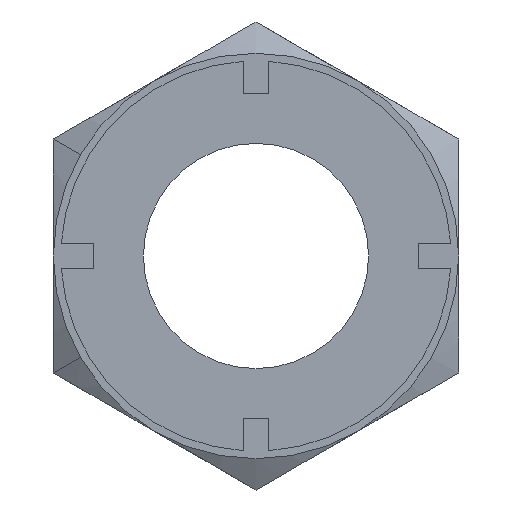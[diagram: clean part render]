
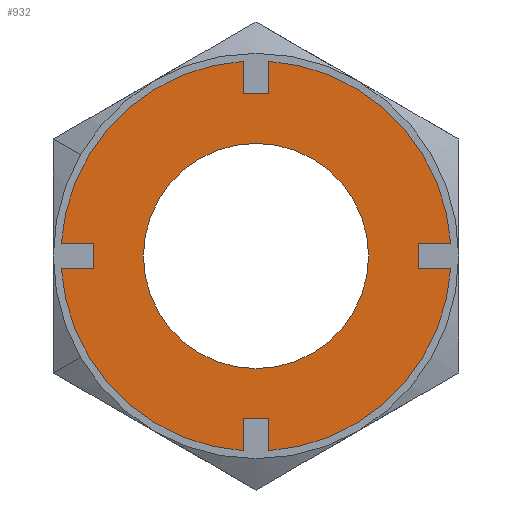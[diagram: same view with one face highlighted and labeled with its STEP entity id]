
A CAD part, left-side view. The second image highlights one B-rep face of the part: STEP entity #932.
In plain terms, the highlighted planar face has unit normal (-1, 0, 0).
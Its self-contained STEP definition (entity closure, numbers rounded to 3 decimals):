
#130=CARTESIAN_POINT('',(-22.0,0.,7.5));
#131=VERTEX_POINT('',#130);
#140=CARTESIAN_POINT('',(-22.0,7.5,0.0));
#141=VERTEX_POINT('',#140);
#142=CARTESIAN_POINT('',(-22.0,0.0,0.0));
#143=DIRECTION('',(1.0,0.0,0.0));
#144=DIRECTION('',(0.0,1.0,0.0));
#145=AXIS2_PLACEMENT_3D('',#142,#143,#144);
#146=CIRCLE('',#145,7.5);
#147=EDGE_CURVE('',#141,#131,#146,.T.);
#332=CARTESIAN_POINT('',(-22.0,0.,-7.5));
#333=VERTEX_POINT('',#332);
#342=CARTESIAN_POINT('',(-22.0,-7.5,0.));
#343=VERTEX_POINT('',#342);
#344=CARTESIAN_POINT('',(-22.0,0.0,0.0));
#345=DIRECTION('',(1.0,0.0,0.0));
#346=DIRECTION('',(0.0,1.0,0.0));
#347=AXIS2_PLACEMENT_3D('',#344,#345,#346);
#348=CIRCLE('',#347,7.5);
#349=EDGE_CURVE('',#343,#333,#348,.T.);
#383=CARTESIAN_POINT('',(-22.0,0.0,0.0));
#384=DIRECTION('',(1.0,0.0,0.0));
#385=DIRECTION('',(0.0,1.0,0.0));
#386=AXIS2_PLACEMENT_3D('',#383,#384,#385);
#387=CIRCLE('',#386,7.5);
#388=EDGE_CURVE('',#333,#141,#387,.T.);
#400=CARTESIAN_POINT('',(-22.0,12.972,0.85));
#401=VERTEX_POINT('',#400);
#416=CARTESIAN_POINT('',(-22.0,10.8,0.85));
#417=VERTEX_POINT('',#416);
#424=CARTESIAN_POINT('',(-22.0,12.972,0.85));
#425=DIRECTION('',(0.0,-1.0,0.0));
#426=VECTOR('',#425,2.172);
#427=LINE('',#424,#426);
#428=EDGE_CURVE('',#401,#417,#427,.T.);
#438=CARTESIAN_POINT('',(-22.0,12.972,-0.85));
#439=VERTEX_POINT('',#438);
#448=CARTESIAN_POINT('',(-22.0,10.8,-0.85));
#449=VERTEX_POINT('',#448);
#450=CARTESIAN_POINT('',(-22.0,10.8,-0.85));
#451=DIRECTION('',(0.0,1.0,0.0));
#452=VECTOR('',#451,2.172);
#453=LINE('',#450,#452);
#454=EDGE_CURVE('',#449,#439,#453,.T.);
#485=CARTESIAN_POINT('',(-22.0,10.8,0.85));
#486=DIRECTION('',(0.0,0.0,-1.0));
#487=VECTOR('',#486,1.7);
#488=LINE('',#485,#487);
#489=EDGE_CURVE('',#417,#449,#488,.T.);
#502=CARTESIAN_POINT('',(-22.0,-0.85,12.972));
#503=VERTEX_POINT('',#502);
#518=CARTESIAN_POINT('',(-22.0,-0.85,10.8));
#519=VERTEX_POINT('',#518);
#526=CARTESIAN_POINT('',(-22.0,-0.85,12.972));
#527=DIRECTION('',(0.0,0.0,-1.0));
#528=VECTOR('',#527,2.172);
#529=LINE('',#526,#528);
#530=EDGE_CURVE('',#503,#519,#529,.T.);
#540=CARTESIAN_POINT('',(-22.0,0.85,12.972));
#541=VERTEX_POINT('',#540);
#550=CARTESIAN_POINT('',(-22.0,0.85,10.8));
#551=VERTEX_POINT('',#550);
#552=CARTESIAN_POINT('',(-22.0,0.85,10.8));
#553=DIRECTION('',(0.0,0.0,1.0));
#554=VECTOR('',#553,2.172);
#555=LINE('',#552,#554);
#556=EDGE_CURVE('',#551,#541,#555,.T.);
#587=CARTESIAN_POINT('',(-22.0,-0.85,10.8));
#588=DIRECTION('',(0.0,1.0,0.0));
#589=VECTOR('',#588,1.7);
#590=LINE('',#587,#589);
#591=EDGE_CURVE('',#519,#551,#590,.T.);
#604=CARTESIAN_POINT('',(-22.0,-12.972,-0.85));
#605=VERTEX_POINT('',#604);
#620=CARTESIAN_POINT('',(-22.0,-10.8,-0.85));
#621=VERTEX_POINT('',#620);
#628=CARTESIAN_POINT('',(-22.0,-12.972,-0.85));
#629=DIRECTION('',(0.0,1.0,0.0));
#630=VECTOR('',#629,2.172);
#631=LINE('',#628,#630);
#632=EDGE_CURVE('',#605,#621,#631,.T.);
#642=CARTESIAN_POINT('',(-22.0,-12.972,0.85));
#643=VERTEX_POINT('',#642);
#652=CARTESIAN_POINT('',(-22.0,-10.8,0.85));
#653=VERTEX_POINT('',#652);
#654=CARTESIAN_POINT('',(-22.0,-10.8,0.85));
#655=DIRECTION('',(0.0,-1.0,0.0));
#656=VECTOR('',#655,2.172);
#657=LINE('',#654,#656);
#658=EDGE_CURVE('',#653,#643,#657,.T.);
#689=CARTESIAN_POINT('',(-22.0,-10.8,-0.85));
#690=DIRECTION('',(0.0,0.0,1.0));
#691=VECTOR('',#690,1.7);
#692=LINE('',#689,#691);
#693=EDGE_CURVE('',#621,#653,#692,.T.);
#706=CARTESIAN_POINT('',(-22.0,0.85,-12.972));
#707=VERTEX_POINT('',#706);
#722=CARTESIAN_POINT('',(-22.0,0.85,-10.8));
#723=VERTEX_POINT('',#722);
#730=CARTESIAN_POINT('',(-22.0,0.85,-12.972));
#731=DIRECTION('',(0.0,0.0,1.0));
#732=VECTOR('',#731,2.172);
#733=LINE('',#730,#732);
#734=EDGE_CURVE('',#707,#723,#733,.T.);
#744=CARTESIAN_POINT('',(-22.0,-0.85,-12.972));
#745=VERTEX_POINT('',#744);
#754=CARTESIAN_POINT('',(-22.0,-0.85,-10.8));
#755=VERTEX_POINT('',#754);
#756=CARTESIAN_POINT('',(-22.0,-0.85,-10.8));
#757=DIRECTION('',(0.0,0.0,-1.0));
#758=VECTOR('',#757,2.172);
#759=LINE('',#756,#758);
#760=EDGE_CURVE('',#755,#745,#759,.T.);
#791=CARTESIAN_POINT('',(-22.0,0.85,-10.8));
#792=DIRECTION('',(0.0,-1.0,0.0));
#793=VECTOR('',#792,1.7);
#794=LINE('',#791,#793);
#795=EDGE_CURVE('',#723,#755,#794,.T.);
#807=CARTESIAN_POINT('',(-22.0,0.0,0.0));
#808=DIRECTION('',(1.0,0.0,0.0));
#809=DIRECTION('',(0.0,1.0,0.0));
#810=AXIS2_PLACEMENT_3D('',#807,#808,#809);
#811=CIRCLE('',#810,13.0);
#812=EDGE_CURVE('',#605,#745,#811,.T.);
#831=CARTESIAN_POINT('',(-22.0,0.0,0.0));
#832=DIRECTION('',(1.0,0.0,0.0));
#833=DIRECTION('',(0.0,1.0,0.0));
#834=AXIS2_PLACEMENT_3D('',#831,#832,#833);
#835=CIRCLE('',#834,13.0);
#836=EDGE_CURVE('',#503,#643,#835,.T.);
#863=CARTESIAN_POINT('',(-22.0,0.0,0.0));
#864=DIRECTION('',(1.0,0.0,0.0));
#865=DIRECTION('',(0.0,1.0,0.0));
#866=AXIS2_PLACEMENT_3D('',#863,#864,#865);
#867=CIRCLE('',#866,13.0);
#868=EDGE_CURVE('',#707,#439,#867,.T.);
#879=CARTESIAN_POINT('',(-22.0,0.0,0.0));
#880=DIRECTION('',(1.0,0.0,0.0));
#881=DIRECTION('',(0.0,1.0,0.0));
#882=AXIS2_PLACEMENT_3D('',#879,#880,#881);
#883=CIRCLE('',#882,13.0);
#884=EDGE_CURVE('',#401,#541,#883,.T.);
#897=CARTESIAN_POINT('',(-22.0,-14.269,-14.269));
#898=DIRECTION('',(-1.0,0.0,0.0));
#899=DIRECTION('',(0.0,0.0,1.0));
#900=AXIS2_PLACEMENT_3D('',#897,#898,#899);
#901=PLANE('',#900);
#902=ORIENTED_EDGE('',*,*,#428,.T.);
#903=ORIENTED_EDGE('',*,*,#489,.T.);
#904=ORIENTED_EDGE('',*,*,#454,.T.);
#905=ORIENTED_EDGE('',*,*,#868,.F.);
#906=ORIENTED_EDGE('',*,*,#734,.T.);
#907=ORIENTED_EDGE('',*,*,#795,.T.);
#908=ORIENTED_EDGE('',*,*,#760,.T.);
#909=ORIENTED_EDGE('',*,*,#812,.F.);
#910=ORIENTED_EDGE('',*,*,#632,.T.);
#911=ORIENTED_EDGE('',*,*,#693,.T.);
#912=ORIENTED_EDGE('',*,*,#658,.T.);
#913=ORIENTED_EDGE('',*,*,#836,.F.);
#914=ORIENTED_EDGE('',*,*,#530,.T.);
#915=ORIENTED_EDGE('',*,*,#591,.T.);
#916=ORIENTED_EDGE('',*,*,#556,.T.);
#917=ORIENTED_EDGE('',*,*,#884,.F.);
#918=EDGE_LOOP('',(#902,#903,#904,#905,#906,#907,#908,#909,#910,#911,#912,#913,#914,#915,#916,#917));
#919=FACE_OUTER_BOUND('',#918,.T.);
#920=ORIENTED_EDGE('',*,*,#147,.T.);
#921=CARTESIAN_POINT('',(-22.0,0.0,0.0));
#922=DIRECTION('',(1.0,0.0,0.0));
#923=DIRECTION('',(0.0,1.0,0.0));
#924=AXIS2_PLACEMENT_3D('',#921,#922,#923);
#925=CIRCLE('',#924,7.5);
#926=EDGE_CURVE('',#131,#343,#925,.T.);
#927=ORIENTED_EDGE('',*,*,#926,.T.);
#928=ORIENTED_EDGE('',*,*,#349,.T.);
#929=ORIENTED_EDGE('',*,*,#388,.T.);
#930=EDGE_LOOP('',(#920,#927,#928,#929));
#931=FACE_BOUND('',#930,.T.);
#932=ADVANCED_FACE('',(#919,#931),#901,.T.);
